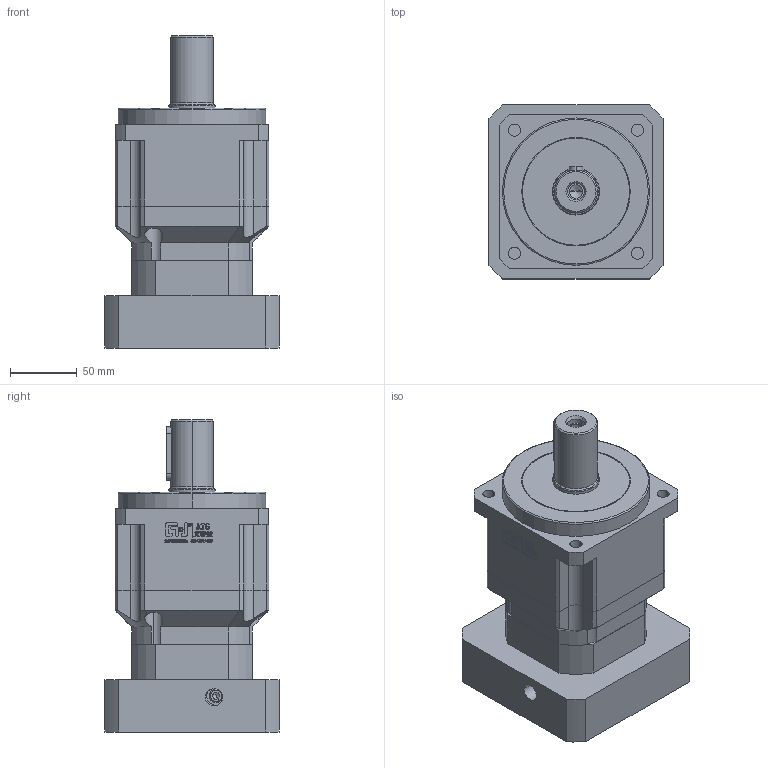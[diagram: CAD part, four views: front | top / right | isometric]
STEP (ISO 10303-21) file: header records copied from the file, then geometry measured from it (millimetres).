
FILE_DESCRIPTION (( 'STEP AP214' ), '1' );
FILE_NAME ('PGH115-L2-[ ]-P2 22-110-145-M8-T bzsc32.STEP', '2024-05-29T07:32:44', ( '' ), ( '' ), 'SwSTEP 2.0', 'SolidWorks 2021', '' );
FILE_SCHEMA (( 'AUTOMOTIVE_DESIGN' ));
Length unit declared in the file: millimetre
Products named in the file (1): PGH115-L2-[ ]-P2 22-110-145-M8-T  bzsc32
Bounding box: 130 x 130 x 233 mm (x, y, z)
Volume: 1709137.2 mm3; surface area: 239921.5 mm2
Topology: 15 solids, 15 shells, 1467 faces, 3810 edges, 2464 vertices
Faces by surface type: plane 774, bspline 309, cylinder 278, cone 84, torus 22
Entity records: 59775 total; most frequent: CARTESIAN_POINT 24876, ORIENTED_EDGE 7516, DIRECTION 6101, EDGE_CURVE 3758, VERTEX_POINT 2464, LINE 2399, VECTOR 2399, AXIS2_PLACEMENT_3D 1851
